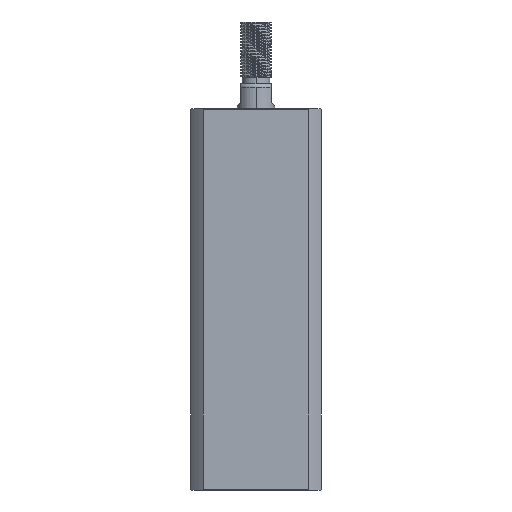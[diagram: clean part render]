
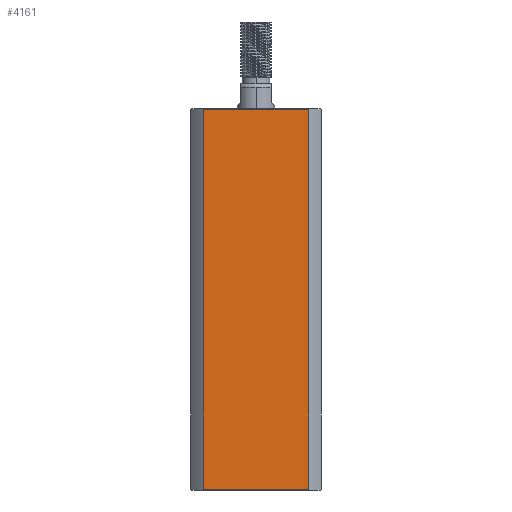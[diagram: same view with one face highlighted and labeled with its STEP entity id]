
A CAD part, left-side view. The second image highlights one B-rep face of the part: STEP entity #4161.
In plain terms, the highlighted planar face has unit normal (-1, 0, 0).
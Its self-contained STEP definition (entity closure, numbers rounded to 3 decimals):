
#45 = DIRECTION ( 'NONE',  ( 0., 1., 0. ) ) ;
#226 = CARTESIAN_POINT ( 'NONE',  ( -21., 21., 0.3 ) ) ;
#448 = CARTESIAN_POINT ( 'NONE',  ( -21., -16.971, -177. ) ) ;
#481 = CARTESIAN_POINT ( 'NONE',  ( -21., 16.971, -177. ) ) ;
#971 = ORIENTED_EDGE ( 'NONE', *, *, #11613, .F. ) ;
#1404 = DIRECTION ( 'NONE',  ( 0., -1., 0. ) ) ;
#1654 = DIRECTION ( 'NONE',  ( 0., 0., 1. ) ) ;
#1761 = CARTESIAN_POINT ( 'NONE',  ( -21., -16.971, 122.7 ) ) ;
#2283 = EDGE_CURVE ( 'NONE', #12549, #6663, #12786, .T. ) ;
#2655 = CARTESIAN_POINT ( 'NONE',  ( -21., 16.971, 122.7 ) ) ;
#2801 = LINE ( 'NONE', #481, #14403 ) ;
#3561 = EDGE_LOOP ( 'NONE', ( #971, #13779, #7263, #4548 ) ) ;
#4161 = ADVANCED_FACE ( 'NONE', ( #4597 ), #8669, .F. ) ;
#4515 = CARTESIAN_POINT ( 'NONE',  ( -21., -16.971, 0.3 ) ) ;
#4548 = ORIENTED_EDGE ( 'NONE', *, *, #12092, .T. ) ;
#4597 = FACE_OUTER_BOUND ( 'NONE', #3561, .T. ) ;
#6382 = DIRECTION ( 'NONE',  ( 1., 0., 0. ) ) ;
#6663 = VERTEX_POINT ( 'NONE', #4515 ) ;
#7263 = ORIENTED_EDGE ( 'NONE', *, *, #2283, .F. ) ;
#7418 = DIRECTION ( 'NONE',  ( 0., 0., -1. ) ) ;
#7952 = EDGE_CURVE ( 'NONE', #8507, #6663, #8940, .T. ) ;
#8507 = VERTEX_POINT ( 'NONE', #9407 ) ;
#8669 = PLANE ( 'NONE',  #12381 ) ;
#8940 = LINE ( 'NONE', #226, #11620 ) ;
#9407 = CARTESIAN_POINT ( 'NONE',  ( -21., 16.971, 0.3 ) ) ;
#9723 = VECTOR ( 'NONE', #7418, 1000. ) ;
#11477 = VECTOR ( 'NONE', #45, 1000. ) ;
#11611 = CARTESIAN_POINT ( 'NONE',  ( -21., 21., 122.7 ) ) ;
#11613 = EDGE_CURVE ( 'NONE', #8507, #13961, #2801, .T. ) ;
#11620 = VECTOR ( 'NONE', #1404, 1000. ) ;
#12092 = EDGE_CURVE ( 'NONE', #12549, #13961, #14588, .T. ) ;
#12156 = CARTESIAN_POINT ( 'NONE',  ( -21., 21., 123. ) ) ;
#12381 = AXIS2_PLACEMENT_3D ( 'NONE', #12156, #6382, #14490 ) ;
#12549 = VERTEX_POINT ( 'NONE', #1761 ) ;
#12786 = LINE ( 'NONE', #448, #9723 ) ;
#13779 = ORIENTED_EDGE ( 'NONE', *, *, #7952, .T. ) ;
#13961 = VERTEX_POINT ( 'NONE', #2655 ) ;
#14403 = VECTOR ( 'NONE', #1654, 1000. ) ;
#14490 = DIRECTION ( 'NONE',  ( 0., 1., 0. ) ) ;
#14588 = LINE ( 'NONE', #11611, #11477 ) ;
